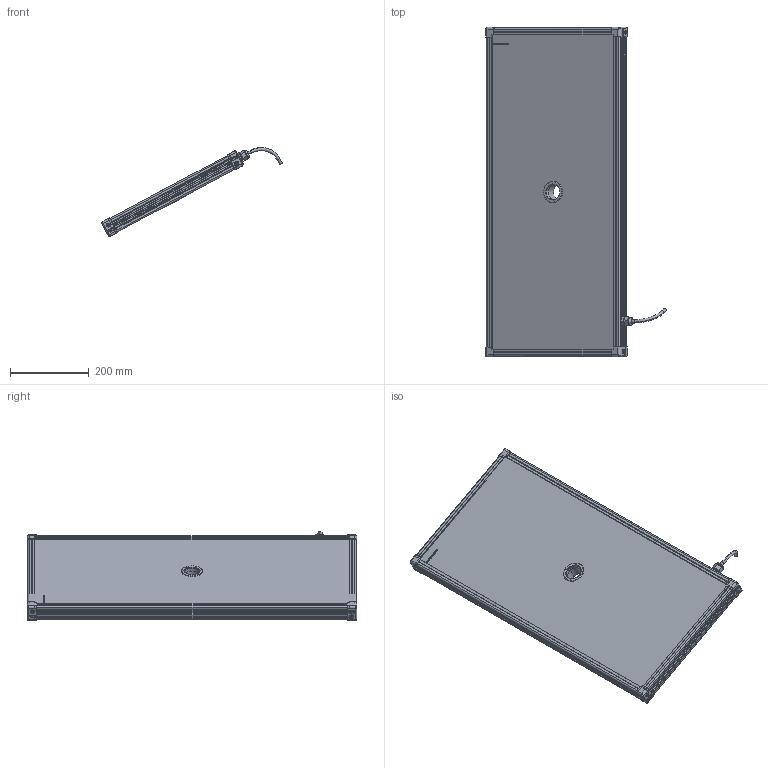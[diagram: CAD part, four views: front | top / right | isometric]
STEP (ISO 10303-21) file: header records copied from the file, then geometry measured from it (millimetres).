
FILE_DESCRIPTION (( 'STEP AP214' ), '1' );
FILE_NAME ('EFFI-FD-350-800-ZZZ-1M12P.STEP', '2021-06-22T08:49:53', ( '' ), ( '' ), 'SwSTEP 2.0', 'SolidWorks 2021', '' );
FILE_SCHEMA (( 'AUTOMOTIVE_DESIGN' ));
Length unit declared in the file: millimetre
Products named in the file (13): assemblage Ø39; EFFI-FD-350-800-ZZZ-1M12P; 001036; 000629; profile Y_PERCE; profile X_PERCE; petite joue; 001035; Pièce13^EFFI-FD-XXX-YYY-ZZZ (1 connecteur) M12POWER Ø39; 000590; M12 power_AVEC CABLE D8.1; petite joue + vis
Assembly tree (19 placements, depth 3):
  EFFI-FD-350-800-ZZZ-1M12P
    profile X_PERCE  x2
    profile Y_PERCE
    profile Y_PERCE
    Pièce13^EFFI-FD-XXX-YYY-ZZZ (1 connecteur) M12POWER Ø39
    petite joue + vis  x4
      petite joue
      000629
    M12 power_AVEC CABLE D8.1
    assemblage Ø39
      001036
      000590  x3
      001035
Bounding box: 459 x 839 x 226.16 mm (x, y, z)
Volume: 11255585.8 mm3; surface area: 1032507.3 mm2
Topology: 22 solids, 25 shells, 3896 faces, 10381 edges, 6830 vertices
Faces by surface type: plane 2438, cylinder 691, bspline 591, cone 154, torus 22
Entity records: 54477 total; most frequent: CARTESIAN_POINT 22298, ORIENTED_EDGE 6752, DIRECTION 5429, EDGE_CURVE 3378, LINE 2403, VECTOR 2403, VERTEX_POINT 2231, AXIS2_PLACEMENT_3D 1513
